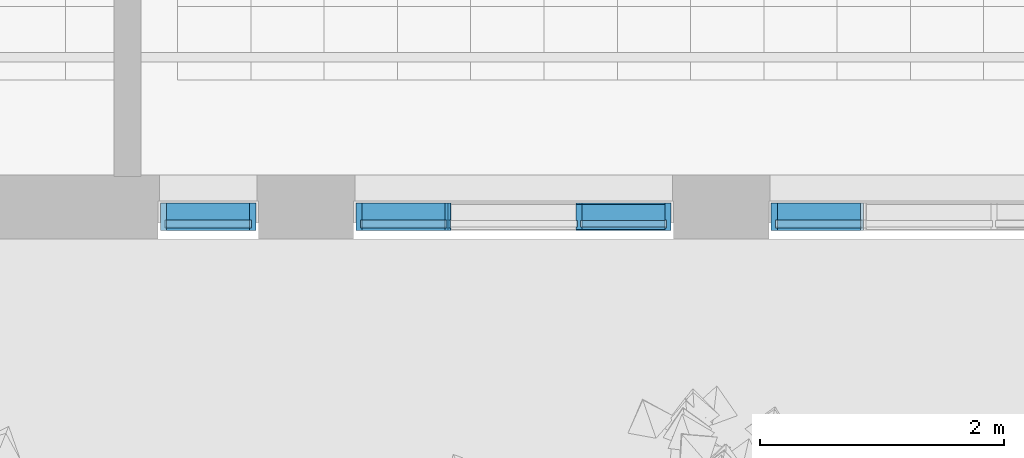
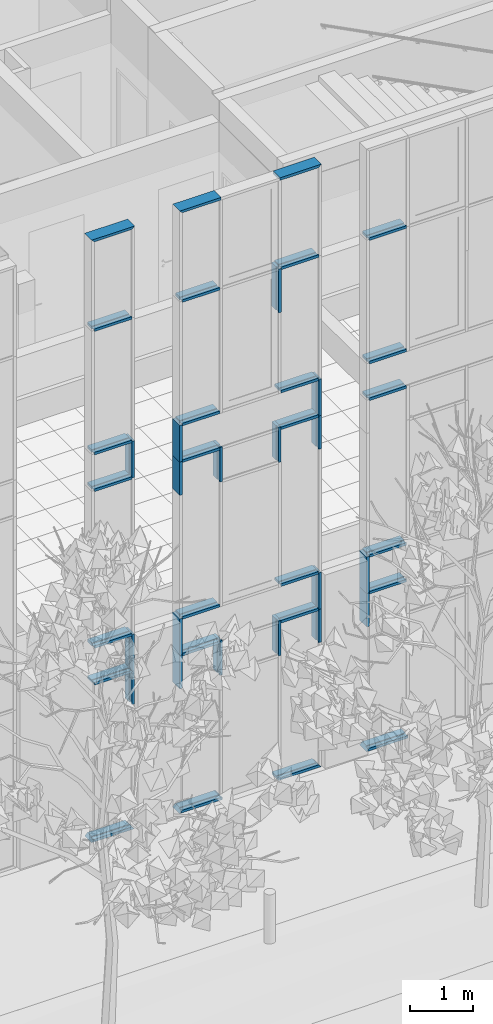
# One storey, part 41 of 246: 46 members, 3 elements without a shape of their own.
"""IFC2X3 building model written with IfcOpenShell, lengths in millimetres."""

from ifc_helpers import new_model, entity, si_unit, converted_unit, derived_unit, money_unit, direction, frame, origin_with_axes, place, context, subcontext, project, spatial, faceted_brep, source, transform, mapped, material, type_object, element, aggregate, save


model = new_model("IFC2X3")

# Units and contexts
model_context = context("Model", 3, precision=0.01, world=origin_with_axes(), true_north=direction((0.0, 1.0)))
body_context = subcontext(model_context, "Body", "Model", "MODEL_VIEW")
ifc_project = project(units=[si_unit("LENGTHUNIT", "METRE", prefix="MILLI"), si_unit("AREAUNIT", "SQUARE_METRE"), si_unit("VOLUMEUNIT", "CUBIC_METRE"), converted_unit("PLANEANGLEUNIT", "DEGREE", entity("IfcPlaneAngleMeasure", 0.0174532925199), si_unit("PLANEANGLEUNIT", "RADIAN"), dimensions=[0, 0, 0, 0, 0, 0, 0]), si_unit("SOLIDANGLEUNIT", "STERADIAN"), money_unit("EUR"), converted_unit("TIMEUNIT", "Year", entity("IfcTimeMeasure", 31556926.0), si_unit("TIMEUNIT", "SECOND"), dimensions=[0, 0, 1, 0, 0, 0, 0]), si_unit("MASSUNIT", "GRAM", prefix="KILO"), si_unit("THERMODYNAMICTEMPERATUREUNIT", "DEGREE_CELSIUS"), si_unit("LUMINOUSINTENSITYUNIT", "LUMEN"), si_unit("ENERGYUNIT", "JOULE", prefix="MEGA"), derived_unit("THERMALCONDUCTANCEUNIT", [(si_unit("POWERUNIT", "WATT"), 1), (si_unit("LENGTHUNIT", "METRE"), -1), (si_unit("THERMODYNAMICTEMPERATUREUNIT", "KELVIN"), -1)]), derived_unit("SPECIFICHEATCAPACITYUNIT", [(si_unit("ENERGYUNIT", "JOULE"), 1), (si_unit("MASSUNIT", "GRAM", prefix="KILO"), -1), (si_unit("THERMODYNAMICTEMPERATUREUNIT", "KELVIN"), -1)]), derived_unit("MASSDENSITYUNIT", [(si_unit("MASSUNIT", "GRAM", prefix="KILO"), 1), (si_unit("VOLUMEUNIT", "CUBIC_METRE"), -1)])], contexts=[model_context])

# Site, building, storey
site_placement = place(None, origin_with_axes())
site = spatial("IfcSite", under=ifc_project, at=site_placement, Name="L.Koidula tn 11b", CompositionType="ELEMENT")
building_placement = place(site_placement, origin_with_axes())
building = spatial("IfcBuilding", under=site, at=building_placement, Name="Rakvere Riigigümnaasium", CompositionType="ELEMENT")
storey_placement = place(building_placement, origin_with_axes())
storey = spatial("IfcBuildingStorey", under=building, at=storey_placement, Name="1.korrus 0,00", CompositionType="ELEMENT", Elevation=0.0)

# Curtain wall, members
curtain_wall_type = type_object("IfcCurtainWallType", Name="Curtain Wall Type", PredefinedType="NOTDEFINED")
curtain_wall_1_placement = place(storey_placement, frame((67100.0002798, 5111.45334637, -1.61944652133e-05), z_axis=(0.0, 0.0, 1.0), x_axis=(1.0, 0.0, 0.0)))
curtain_wall_1 = element("IfcCurtainWall", 1, at=curtain_wall_1_placement, inside=storey, type_object=curtain_wall_type, Name="KLF-05-4A")
ifc_material = material(Name="Alumiiniumprofiil (RAL 7021)")
member_type_1 = type_object("IfcMemberType", Name="Boundary Frame 50 x 222", PredefinedType="MULLION")
shared_shape_1 = source(origin_with_axes(), body_context, "Body", "Brep", [
    faceted_brep([(37.0, -32.5, 705.000000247), (37.0, 32.5, 705.000000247), (50.0, 32.5, 705.000000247), (50.0, 53.0, 705.000000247), (0.0, 53.0, 705.000000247), (0.0, -169.0, 705.000000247), (50.0, -169.0, 705.000000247), (50.0, -32.5, 705.000000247), (37.0, -32.5, 0.0), (37.0, 32.5, 0.0), (50.0, 32.5, 0.0), (50.0, 53.0, 0.0), (0.0, 53.0, 0.0), (0.0, -169.0, 0.0), (50.0, -169.0, 0.0), (50.0, -32.5, 0.0)], [[[0, 1, 2, 3, 4, 5, 6, 7]], [[1, 0, 8, 9]], [[10, 2, 1, 9]], [[2, 10, 11, 3]], [[12, 4, 3, 11]], [[13, 5, 4, 12]], [[14, 6, 5, 13]], [[15, 7, 6, 14]], [[0, 7, 15, 8]], [[8, 15, 14, 13, 12, 11, 10, 9]]]),
])
member_1_placement = place(curtain_wall_1_placement, frame((390.000208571, 0.0, 6760.0), z_axis=(0.0, 0.0, 1.0), x_axis=(-1.0, 0.0, 0.0)))
member_1 = element("IfcMember", 2, at=member_1_placement, type_object=member_type_1, material=ifc_material, Name="KLF-05-2A-Profiilid", ObjectType="MULLION", context=body_context, shape_type="MappedRepresentation", body=[
    mapped(shared_shape_1, transform((0.0, 0.0, 0.0))),
])
member_2_placement = place(curtain_wall_1_placement, frame((390.000208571, 0.0, 3040.0), z_axis=(0.0, 0.0, 1.0), x_axis=(-1.0, 0.0, 0.0)))
member_2 = element("IfcMember", 3, at=member_2_placement, type_object=member_type_1, material=ifc_material, Name="KLF-05-0A-Profiilid", ObjectType="MULLION", context=body_context, shape_type="MappedRepresentation", body=[
    mapped(shared_shape_1, transform((0.0, 0.0, 0.0))),
])

# Curtain wall, member
curtain_wall_2_placement = place(storey_placement, frame((72896.908541, 5111.45334637, -8.09717227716e-06), z_axis=(0.0, 0.0, 1.0), x_axis=(1.0, 0.0, 0.0)))
curtain_wall_2 = element("IfcCurtainWall", 4, at=curtain_wall_2_placement, inside=storey, type_object=curtain_wall_type, Name="KLF-05-3B")
member_3_placement = place(curtain_wall_2_placement, frame((-1186.90871197, 0.0, 3745.0), z_axis=(0.0, 0.0, -1.0), x_axis=(1.0, 0.0, 0.0)))
member_3 = element("IfcMember", 5, at=member_3_placement, type_object=member_type_1, material=ifc_material, Name="KLF-05-9A-Profiilid", ObjectType="MULLION", context=body_context, shape_type="MappedRepresentation", body=[
    mapped(shared_shape_1, transform((0.0, 0.0, 0.0))),
])

# Curtain wall, members
curtain_wall_3_placement = place(storey_placement, frame((69496.9084811, 5111.45334637, -8.09717186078e-06), z_axis=(0.0, 0.0, 1.0), x_axis=(1.0, 0.0, 0.0)))
curtain_wall_3 = element("IfcCurtainWall", 6, at=curtain_wall_3_placement, inside=storey, type_object=curtain_wall_type, Name="KLF-05-3B")
member_4_placement = place(curtain_wall_3_placement, frame((-1186.90871197, 0.0, 3745.0), z_axis=(0.0, 0.0, -1.0), x_axis=(1.0, 0.0, 0.0)))
member_4 = element("IfcMember", 7, at=member_4_placement, type_object=member_type_1, material=ifc_material, Name="KLF-05-9A-Profiilid", ObjectType="MULLION", context=body_context, shape_type="MappedRepresentation", body=[
    mapped(shared_shape_1, transform((0.0, 0.0, 0.0))),
])
member_5_placement = place(curtain_wall_3_placement, frame((-1186.90888468, 0.0, 7465.0), z_axis=(2.44971087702e-07, 0.0, -1.0), x_axis=(1.0, 0.0, 2.44971087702e-07)))
member_5 = element("IfcMember", 8, at=member_5_placement, type_object=member_type_1, material=ifc_material, Name="KLF-05-6A-Profiilid", ObjectType="MULLION", context=body_context, shape_type="MappedRepresentation", body=[
    mapped(shared_shape_1, transform((0.0, 0.0, 0.0))),
])
member_6_placement = place(curtain_wall_3_placement, frame((1393.0913307, 0.0, 6760.0), z_axis=(0.0, 0.0, 1.0), x_axis=(-1.0, 0.0, 0.0)))
member_6 = element("IfcMember", 9, at=member_6_placement, type_object=member_type_1, material=ifc_material, Name="KLF-05-8A-Profiilid", ObjectType="MULLION", context=body_context, shape_type="MappedRepresentation", body=[
    mapped(shared_shape_1, transform((0.0, 0.0, 0.0))),
])
member_7_placement = place(curtain_wall_3_placement, frame((1393.0913307, 0.0, 3040.0), z_axis=(0.0, 0.0, 1.0), x_axis=(-1.0, 0.0, 0.0)))
member_7 = element("IfcMember", 10, at=member_7_placement, type_object=member_type_1, material=ifc_material, Name="KLF-05-5A-Profiilid", ObjectType="MULLION", context=body_context, shape_type="MappedRepresentation", body=[
    mapped(shared_shape_1, transform((0.0, 0.0, 0.0))),
])

# Member
shared_shape_2 = source(origin_with_axes(), body_context, "Body", "Brep", [
    faceted_brep([(37.0, -32.5, 640.0), (37.0, 32.5, 640.0), (50.0, 32.5, 640.0), (50.0, 53.0, 640.0), (0.0, 53.0, 640.0), (0.0, -169.0, 640.0), (50.0, -169.0, 640.0), (50.0, -32.5, 640.0), (37.0, -32.5, 0.0), (37.0, 32.5, 0.0), (50.0, 32.5, 0.0), (50.0, 53.0, 0.0), (0.0, 53.0, 0.0), (0.0, -169.0, 0.0), (50.0, -169.0, 0.0), (50.0, -32.5, 0.0)], [[[0, 1, 2, 3, 4, 5, 6, 7]], [[1, 0, 8, 9]], [[10, 2, 1, 9]], [[2, 10, 11, 3]], [[12, 4, 3, 11]], [[13, 5, 4, 12]], [[14, 6, 5, 13]], [[15, 7, 6, 14]], [[0, 7, 15, 8]], [[8, 15, 14, 13, 12, 11, 10, 9]]]),
])
member_8_placement = place(curtain_wall_1_placement, frame((390.000208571, 0.0, 2400.0), z_axis=(0.0, 0.0, 1.0), x_axis=(-1.0, 0.0, 0.0)))
member_8 = element("IfcMember", 11, at=member_8_placement, type_object=member_type_1, material=ifc_material, Name="KLF-05-9A-Profiilid", ObjectType="MULLION", context=body_context, shape_type="MappedRepresentation", body=[
    mapped(shared_shape_2, transform((0.0, 0.0, 0.0))),
])

member_9_placement = place(curtain_wall_2_placement, frame((-1186.90871197, 0.0, 3040.0), z_axis=(0.0, 0.0, -1.0), x_axis=(1.0, 0.0, 0.0)))
member_9 = element("IfcMember", 12, at=member_9_placement, type_object=member_type_1, material=ifc_material, Name="KLF-05-0A-Profiilid", ObjectType="MULLION", context=body_context, shape_type="MappedRepresentation", body=[
    mapped(shared_shape_2, transform((0.0, 0.0, 0.0))),
])

member_10_placement = place(curtain_wall_3_placement, frame((-1186.90871197, 0.0, 3040.0), z_axis=(0.0, 0.0, -1.0), x_axis=(1.0, 0.0, 0.0)))
member_10 = element("IfcMember", 13, at=member_10_placement, type_object=member_type_1, material=ifc_material, Name="KLF-05-0A-Profiilid", ObjectType="MULLION", context=body_context, shape_type="MappedRepresentation", body=[
    mapped(shared_shape_2, transform((0.0, 0.0, 0.0))),
])

member_11_placement = place(curtain_wall_3_placement, frame((-1186.90871197, 0.0, 6760.0), z_axis=(0.0, 0.0, -1.0), x_axis=(1.0, 0.0, 0.0)))
member_11 = element("IfcMember", 14, at=member_11_placement, type_object=member_type_1, material=ifc_material, Name="KLF-05-7A-Profiilid", ObjectType="MULLION", context=body_context, shape_type="MappedRepresentation", body=[
    mapped(shared_shape_2, transform((0.0, 0.0, 0.0))),
])

member_12_placement = place(curtain_wall_3_placement, frame((1393.09127348, 0.0, 6120.0), z_axis=(8.94070373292e-08, 0.0, 1.0), x_axis=(-1.0, 0.0, 8.94070373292e-08)))
member_12 = element("IfcMember", 15, at=member_12_placement, type_object=member_type_1, material=ifc_material, Name="KLF-05-7A-Profiilid", ObjectType="MULLION", context=body_context, shape_type="MappedRepresentation", body=[
    mapped(shared_shape_2, transform((0.0, 0.0, 0.0))),
])

member_13_placement = place(curtain_wall_3_placement, frame((1393.09127348, 0.0, 2400.0), z_axis=(8.94070373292e-08, 0.0, 1.0), x_axis=(-1.0, 0.0, 8.94070373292e-08)))
member_13 = element("IfcMember", 16, at=member_13_placement, type_object=member_type_1, material=ifc_material, Name="KLF-05-4A-Profiilid", ObjectType="MULLION", context=body_context, shape_type="MappedRepresentation", body=[
    mapped(shared_shape_2, transform((0.0, 0.0, 0.0))),
])

member_type_2 = type_object("IfcMemberType", Name="Transom Frame 50 x 222", PredefinedType="MULLION")
shared_shape_3 = source(origin_with_axes(), body_context, "Body", "Brep", [
    faceted_brep([(-12.0, -32.5, 730.000405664), (-25.0, -32.5, 730.000405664), (-25.0, -169.0, 730.000405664), (25.0, -169.0, 730.000405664), (25.0, -32.5, 730.000405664), (12.0, -32.5, 730.000405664), (12.0, 32.5, 730.000405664), (25.0, 32.5, 730.000405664), (25.0, 53.0, 730.000405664), (-25.0, 53.0, 730.000405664), (-25.0, 32.5, 730.000405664), (-12.0, 32.5, 730.000405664), (-12.0, -32.5, 50.0), (-25.0, -32.5, 50.0), (-25.0, -169.0, 50.0), (25.0, -169.0, 50.0), (25.0, -32.5, 50.0), (12.0, -32.5, 50.0), (12.0, 32.5, 50.0), (25.0, 32.5, 50.0), (25.0, 53.0, 50.0), (-25.0, 53.0, 50.0), (-25.0, 32.5, 50.0), (-12.0, 32.5, 50.0)], [[[0, 1, 2, 3, 4, 5, 6, 7, 8, 9, 10, 11]], [[1, 0, 12, 13]], [[1, 13, 14, 2]], [[2, 14, 15, 3]], [[4, 3, 15, 16]], [[4, 16, 17, 5]], [[5, 17, 18, 6]], [[7, 6, 18, 19]], [[19, 20, 8, 7]], [[8, 20, 21, 9]], [[22, 10, 9, 21]], [[11, 10, 22, 23]], [[0, 11, 23, 12]], [[23, 22, 21, 20, 19, 18, 17, 16, 15, 14, 13, 12]]]),
])
member_14_placement = place(curtain_wall_1_placement, frame((-390.000197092, 0.0, 3040.0), z_axis=(1.0, 0.0, 0.0), x_axis=(0.0, 0.0, 1.0)))
member_14 = element("IfcMember", 17, at=member_14_placement, type_object=member_type_2, material=ifc_material, Name="KLF-05-9A-Profiilid", ObjectType="MULLION", context=body_context, shape_type="MappedRepresentation", body=[
    mapped(shared_shape_3, transform((0.0, 0.0, 0.0))),
])

member_15_placement = place(curtain_wall_1_placement, frame((-390.000197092, 0.0, 9840.0), z_axis=(1.0, 0.0, 0.0), x_axis=(0.0, 0.0, 1.0)))
member_15 = element("IfcMember", 18, at=member_15_placement, type_object=member_type_2, material=ifc_material, Name="KLF-05-0A-Profiilid", ObjectType="MULLION", context=body_context, shape_type="MappedRepresentation", body=[
    mapped(shared_shape_3, transform((0.0, 0.0, 0.0))),
])

member_16_placement = place(curtain_wall_1_placement, frame((-390.000197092, 0.0, 7465.0), z_axis=(1.0, 0.0, 0.0), x_axis=(0.0, 0.0, 1.0)))
member_16 = element("IfcMember", 19, at=member_16_placement, type_object=member_type_2, material=ifc_material, Name="KLF-05-1A-Profiilid", ObjectType="MULLION", context=body_context, shape_type="MappedRepresentation", body=[
    mapped(shared_shape_3, transform((0.0, 0.0, 0.0))),
])

member_17_placement = place(curtain_wall_1_placement, frame((-390.000197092, 0.0, 6760.0), z_axis=(1.0, 0.0, 0.0), x_axis=(0.0, 0.0, 1.0)))
member_17 = element("IfcMember", 20, at=member_17_placement, type_object=member_type_2, material=ifc_material, Name="KLF-05-2A-Profiilid", ObjectType="MULLION", context=body_context, shape_type="MappedRepresentation", body=[
    mapped(shared_shape_3, transform((0.0, 0.0, 0.0))),
])

member_18_placement = place(curtain_wall_1_placement, frame((-390.000197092, 0.0, 3745.0), z_axis=(1.0, 0.0, 0.0), x_axis=(0.0, 0.0, 1.0)))
member_18 = element("IfcMember", 21, at=member_18_placement, type_object=member_type_2, material=ifc_material, Name="KLF-05-7A-Profiilid", ObjectType="MULLION", context=body_context, shape_type="MappedRepresentation", body=[
    mapped(shared_shape_3, transform((0.0, 0.0, 0.0))),
])

member_type_3 = type_object("IfcMemberType", Name="Mullion Frame 50 x 222", PredefinedType="MULLION")
shared_shape_4 = source(origin_with_axes(), body_context, "Body", "Brep", [
    faceted_brep([(-12.0, -32.5, 665.0), (-25.0, -32.5, 665.0), (-25.0, -169.0, 665.0), (25.0, -169.0, 665.0), (25.0, -32.5, 665.0), (12.0, -32.5, 665.0), (12.0, 32.5, 665.0), (25.0, 32.5, 665.0), (25.0, 53.0, 665.0), (-25.0, 53.0, 665.0), (-25.0, 32.5, 665.0), (-12.0, 32.5, 665.0), (-12.0, -32.5, 0.0), (-25.0, -32.5, 0.0), (-25.0, -169.0, 0.0), (25.0, -169.0, 0.0), (25.0, -32.5, 0.0), (12.0, -32.5, 0.0), (12.0, 32.5, 0.0), (25.0, 32.5, 0.0), (25.0, 53.0, 0.0), (-25.0, 53.0, 0.0), (-25.0, 32.5, 0.0), (-12.0, 32.5, 0.0)], [[[0, 1, 2, 3, 4, 5, 6, 7, 8, 9, 10, 11]], [[1, 0, 12, 13]], [[1, 13, 14, 2]], [[3, 2, 14, 15]], [[4, 3, 15, 16]], [[4, 16, 17, 5]], [[5, 17, 18, 6]], [[7, 6, 18, 19]], [[19, 20, 8, 7]], [[9, 8, 20, 21]], [[22, 10, 9, 21]], [[11, 10, 22, 23]], [[0, 11, 23, 12]], [[23, 22, 21, 20, 19, 18, 17, 16, 15, 14, 13, 12]]]),
])
member_19_placement = place(curtain_wall_3_placement, frame((-431.908628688, 0.0, 2400.0), z_axis=(0.0, 0.0, 1.0), x_axis=(-1.0, 0.0, 0.0)))
member_19 = element("IfcMember", 22, at=member_19_placement, type_object=member_type_3, material=ifc_material, Name="KLF-05-1A-Profiilid", ObjectType="MULLION", context=body_context, shape_type="MappedRepresentation", body=[
    mapped(shared_shape_4, transform((0.0, 0.0, 0.0))),
])

member_20_placement = place(curtain_wall_3_placement, frame((-431.908628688, 0.0, 6120.0), z_axis=(0.0, 0.0, 1.0), x_axis=(-1.0, 0.0, 0.0)))
member_20 = element("IfcMember", 23, at=member_20_placement, type_object=member_type_3, material=ifc_material, Name="KLF-05-8A-Profiilid", ObjectType="MULLION", context=body_context, shape_type="MappedRepresentation", body=[
    mapped(shared_shape_4, transform((0.0, 0.0, 0.0))),
])

member_type_4 = type_object("IfcMemberType", Name="50 x 208", PredefinedType="MULLION")
shared_shape_5 = source(origin_with_axes(), body_context, "Body", "Brep", [
    faceted_brep([(-12.0, -27.0, 665.0), (-25.0, -27.0, 665.0), (-25.0, -160.0, 665.0), (25.0, -160.0, 665.0), (25.0, -27.0, 665.0), (12.0, -27.0, 665.0), (12.0, 27.0, 665.0), (25.0, 27.0, 665.0), (25.0, 48.0, 665.0), (-25.0, 48.0, 665.0), (-25.0, 27.0, 665.0), (-12.0, 27.0, 665.0), (-12.0, -27.0, 0.0), (-25.0, -27.0, 0.0), (-25.0, -160.0, 0.0), (25.0, -160.0, 0.0), (25.0, -27.0, 0.0), (12.0, -27.0, 0.0), (12.0, 27.0, 0.0), (25.0, 27.0, 0.0), (25.0, 48.0, 0.0), (-25.0, 48.0, 0.0), (-25.0, 27.0, 0.0), (-12.0, 27.0, 0.0)], [[[0, 1, 2, 3, 4, 5, 6, 7, 8, 9, 10, 11]], [[1, 0, 12, 13]], [[1, 13, 14, 2]], [[3, 2, 14, 15]], [[4, 3, 15, 16]], [[4, 16, 17, 5]], [[5, 17, 18, 6]], [[7, 6, 18, 19]], [[19, 20, 8, 7]], [[9, 8, 20, 21]], [[22, 10, 9, 21]], [[11, 10, 22, 23]], [[0, 11, 23, 12]], [[23, 22, 21, 20, 19, 18, 17, 16, 15, 14, 13, 12]]]),
])
member_21_placement = place(curtain_wall_3_placement, frame((638.091371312, 0.0, 2400.0), z_axis=(0.0, 0.0, 1.0), x_axis=(-1.0, 0.0, 0.0)))
member_21 = element("IfcMember", 24, at=member_21_placement, type_object=member_type_4, material=ifc_material, Name="KLF-41", ObjectType="MULLION", context=body_context, shape_type="MappedRepresentation", body=[
    mapped(shared_shape_5, transform((0.0, 0.0, 0.0))),
])

member_22_placement = place(curtain_wall_3_placement, frame((638.091371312, 0.0, 6120.0), z_axis=(0.0, 0.0, 1.0), x_axis=(-1.0, 0.0, 0.0)))
member_22 = element("IfcMember", 25, at=member_22_placement, type_object=member_type_4, material=ifc_material, Name="KLF-96", ObjectType="MULLION", context=body_context, shape_type="MappedRepresentation", body=[
    mapped(shared_shape_5, transform((0.0, 0.0, 0.0))),
])

shared_shape_6 = source(origin_with_axes(), body_context, "Body", "Brep", [
    faceted_brep([(-12.0, -32.5, 730.000255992), (-25.0, -32.5, 730.000255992), (-25.0, -169.0, 730.000255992), (25.0, -169.0, 730.000255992), (25.0, -32.5, 730.000255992), (12.0, -32.5, 730.000255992), (12.0, 32.5, 730.000255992), (25.0, 32.5, 730.000255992), (25.0, 53.0, 730.000255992), (-25.0, 53.0, 730.000255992), (-25.0, 32.5, 730.000255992), (-12.0, 32.5, 730.000255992), (-12.0, -32.5, 50.0), (-25.0, -32.5, 50.0), (-25.0, -169.0, 50.0), (25.0, -169.0, 50.0), (25.0, -32.5, 50.0), (12.0, -32.5, 50.0), (12.0, 32.5, 50.0), (25.0, 32.5, 50.0), (25.0, 53.0, 50.0), (-25.0, 53.0, 50.0), (-25.0, 32.5, 50.0), (-12.0, 32.5, 50.0)], [[[0, 1, 2, 3, 4, 5, 6, 7, 8, 9, 10, 11]], [[1, 0, 12, 13]], [[1, 13, 14, 2]], [[2, 14, 15, 3]], [[4, 3, 15, 16]], [[4, 16, 17, 5]], [[5, 17, 18, 6]], [[7, 6, 18, 19]], [[19, 20, 8, 7]], [[8, 20, 21, 9]], [[22, 10, 9, 21]], [[11, 10, 22, 23]], [[0, 11, 23, 12]], [[23, 22, 21, 20, 19, 18, 17, 16, 15, 14, 13, 12]]]),
])
member_23_placement = place(curtain_wall_2_placement, frame((-1186.90888468, 0.0, 7465.0), z_axis=(1.0, 0.0, 0.0), x_axis=(0.0, 0.0, 1.0)))
member_23 = element("IfcMember", 26, at=member_23_placement, type_object=member_type_2, material=ifc_material, Name="KLF-05-2A-Profiilid", ObjectType="MULLION", context=body_context, shape_type="MappedRepresentation", body=[
    mapped(shared_shape_6, transform((0.0, 0.0, 0.0))),
])

member_24_placement = place(curtain_wall_2_placement, frame((-1186.90871197, 0.0, 6760.0), z_axis=(1.0, 0.0, 0.0), x_axis=(0.0, 0.0, 1.0)))
member_24 = element("IfcMember", 27, at=member_24_placement, type_object=member_type_2, material=ifc_material, Name="KLF-05-0A-Profiilid", ObjectType="MULLION", context=body_context, shape_type="MappedRepresentation", body=[
    mapped(shared_shape_6, transform((0.0, 0.0, 0.0))),
])

member_25_placement = place(curtain_wall_2_placement, frame((-1186.90888468, 0.0, 9840.0), z_axis=(1.0, 0.0, 0.0), x_axis=(0.0, 0.0, 1.0)))
member_25 = element("IfcMember", 28, at=member_25_placement, type_object=member_type_2, material=ifc_material, Name="KLF-05-4A-Profiilid", ObjectType="MULLION", context=body_context, shape_type="MappedRepresentation", body=[
    mapped(shared_shape_6, transform((0.0, 0.0, 0.0))),
])

member_26_placement = place(curtain_wall_2_placement, frame((-1186.90871197, 0.0, 3745.0), z_axis=(1.0, 0.0, 0.0), x_axis=(0.0, 0.0, 1.0)))
member_26 = element("IfcMember", 29, at=member_26_placement, type_object=member_type_2, material=ifc_material, Name="KLF-05-6A-Profiilid", ObjectType="MULLION", context=body_context, shape_type="MappedRepresentation", body=[
    mapped(shared_shape_6, transform((0.0, 0.0, 0.0))),
])

member_27_placement = place(curtain_wall_2_placement, frame((-1186.90871197, 0.0, 3040.0), z_axis=(1.0, 0.0, 0.0), x_axis=(0.0, 0.0, 1.0)))
member_27 = element("IfcMember", 30, at=member_27_placement, type_object=member_type_2, material=ifc_material, Name="KLF-05-0A-Profiilid", ObjectType="MULLION", context=body_context, shape_type="MappedRepresentation", body=[
    mapped(shared_shape_6, transform((0.0, 0.0, 0.0))),
])

member_28_placement = place(curtain_wall_3_placement, frame((-1186.90888468, 0.0, 7465.0), z_axis=(1.0, 0.0, 0.0), x_axis=(0.0, 0.0, 1.0)))
member_28 = element("IfcMember", 31, at=member_28_placement, type_object=member_type_2, material=ifc_material, Name="KLF-05-2A-Profiilid", ObjectType="MULLION", context=body_context, shape_type="MappedRepresentation", body=[
    mapped(shared_shape_6, transform((0.0, 0.0, 0.0))),
])

member_29_placement = place(curtain_wall_3_placement, frame((-1186.90871197, 0.0, 6760.0), z_axis=(1.0, 0.0, 0.0), x_axis=(0.0, 0.0, 1.0)))
member_29 = element("IfcMember", 32, at=member_29_placement, type_object=member_type_2, material=ifc_material, Name="KLF-05-0A-Profiilid", ObjectType="MULLION", context=body_context, shape_type="MappedRepresentation", body=[
    mapped(shared_shape_6, transform((0.0, 0.0, 0.0))),
])

member_30_placement = place(curtain_wall_3_placement, frame((-1186.90888468, 0.0, 9840.0), z_axis=(1.0, 0.0, 0.0), x_axis=(0.0, 0.0, 1.0)))
member_30 = element("IfcMember", 33, at=member_30_placement, type_object=member_type_2, material=ifc_material, Name="KLF-05-4A-Profiilid", ObjectType="MULLION", context=body_context, shape_type="MappedRepresentation", body=[
    mapped(shared_shape_6, transform((0.0, 0.0, 0.0))),
])

member_31_placement = place(curtain_wall_3_placement, frame((-1186.90871197, 0.0, 3745.0), z_axis=(1.0, 0.0, 0.0), x_axis=(0.0, 0.0, 1.0)))
member_31 = element("IfcMember", 34, at=member_31_placement, type_object=member_type_2, material=ifc_material, Name="KLF-05-6A-Profiilid", ObjectType="MULLION", context=body_context, shape_type="MappedRepresentation", body=[
    mapped(shared_shape_6, transform((0.0, 0.0, 0.0))),
])

member_32_placement = place(curtain_wall_3_placement, frame((-1186.90871197, 0.0, 3040.0), z_axis=(1.0, 0.0, 0.0), x_axis=(0.0, 0.0, 1.0)))
member_32 = element("IfcMember", 35, at=member_32_placement, type_object=member_type_2, material=ifc_material, Name="KLF-05-0A-Profiilid", ObjectType="MULLION", context=body_context, shape_type="MappedRepresentation", body=[
    mapped(shared_shape_6, transform((0.0, 0.0, 0.0))),
])

shared_shape_7 = source(origin_with_axes(), body_context, "Body", "Brep", [
    faceted_brep([(-12.0, -27.0, 704.999959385), (-25.0, -27.0, 704.999959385), (-25.0, -160.0, 704.999959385), (25.0, -160.0, 704.999959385), (25.0, -27.0, 704.999959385), (12.0, -27.0, 704.999959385), (12.0, 27.0, 704.999959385), (25.0, 27.0, 704.999959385), (25.0, 48.0, 704.999959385), (-25.0, 48.0, 704.999959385), (-25.0, 27.0, 704.999959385), (-12.0, 27.0, 704.999959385), (-12.0, -27.0, 25.0), (-25.0, -27.0, 25.0), (-25.0, -160.0, 25.0), (25.0, -160.0, 25.0), (25.0, -27.0, 25.0), (12.0, -27.0, 25.0), (12.0, 27.0, 25.0), (25.0, 27.0, 25.0), (25.0, 48.0, 25.0), (-25.0, 48.0, 25.0), (-25.0, 27.0, 25.0), (-12.0, 27.0, 25.0)], [[[0, 1, 2, 3, 4, 5, 6, 7, 8, 9, 10, 11]], [[1, 0, 12, 13]], [[1, 13, 14, 2]], [[2, 14, 15, 3]], [[4, 3, 15, 16]], [[4, 16, 17, 5]], [[5, 17, 18, 6]], [[7, 6, 18, 19]], [[19, 20, 8, 7]], [[8, 20, 21, 9]], [[22, 10, 9, 21]], [[11, 10, 22, 23]], [[0, 11, 23, 12]], [[23, 22, 21, 20, 19, 18, 17, 16, 15, 14, 13, 12]]]),
])
member_33_placement = place(curtain_wall_3_placement, frame((638.091371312, 0.0, 7465.0), z_axis=(1.0, 0.0, 0.0), x_axis=(0.0, 0.0, 1.0)))
member_33 = element("IfcMember", 36, at=member_33_placement, type_object=member_type_4, material=ifc_material, Name="KLF-57", ObjectType="MULLION", context=body_context, shape_type="MappedRepresentation", body=[
    mapped(shared_shape_7, transform((0.0, 0.0, 0.0))),
])

member_34_placement = place(curtain_wall_3_placement, frame((638.091371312, 0.0, 6760.0), z_axis=(1.0, 0.0, 0.0), x_axis=(0.0, 0.0, 1.0)))
member_34 = element("IfcMember", 37, at=member_34_placement, type_object=member_type_4, material=ifc_material, Name="KLF-33", ObjectType="MULLION", context=body_context, shape_type="MappedRepresentation", body=[
    mapped(shared_shape_7, transform((0.0, 0.0, 0.0))),
])

member_35_placement = place(curtain_wall_3_placement, frame((638.091371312, 0.0, 3745.0), z_axis=(1.0, 0.0, 0.0), x_axis=(0.0, 0.0, 1.0)))
member_35 = element("IfcMember", 38, at=member_35_placement, type_object=member_type_4, material=ifc_material, Name="KLF-08", ObjectType="MULLION", context=body_context, shape_type="MappedRepresentation", body=[
    mapped(shared_shape_7, transform((0.0, 0.0, 0.0))),
])

member_36_placement = place(curtain_wall_3_placement, frame((638.091371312, 0.0, 3040.0), z_axis=(1.0, 0.0, 0.0), x_axis=(0.0, 0.0, 1.0)))
member_36 = element("IfcMember", 39, at=member_36_placement, type_object=member_type_4, material=ifc_material, Name="KLF-09", ObjectType="MULLION", context=body_context, shape_type="MappedRepresentation", body=[
    mapped(shared_shape_7, transform((0.0, 0.0, 0.0))),
])

shared_shape_8 = source(origin_with_axes(), body_context, "Body", "Brep", [
    faceted_brep([(37.0, -32.5, 743.000405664), (37.0, 32.5, 743.000405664), (50.0, 32.5, 730.000405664), (50.0, 53.0, 730.000405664), (0.0, 53.0, 780.000405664), (0.0, -169.0, 780.000405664), (50.0, -169.0, 730.000405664), (50.0, -32.5, 730.000405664), (37.0, -32.5, 37.0), (37.0, 32.5, 37.0), (50.0, 32.5, 50.0), (50.0, 53.0, 50.0), (0.0, 53.0, 0.0), (0.0, -169.0, 0.0), (50.0, -169.0, 50.0), (50.0, -32.5, 50.0)], [[[0, 1, 2, 3, 4, 5, 6, 7]], [[1, 0, 8, 9]], [[10, 2, 1, 9]], [[2, 10, 11, 3]], [[4, 3, 11, 12]], [[5, 4, 12, 13]], [[6, 5, 13, 14]], [[15, 7, 6, 14]], [[0, 7, 15, 8]], [[8, 15, 14, 13, 12, 11, 10, 9]]]),
])
member_37_placement = place(curtain_wall_1_placement, frame((-390.000197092, 0.0, 0.0), z_axis=(1.0, 0.0, 0.0), x_axis=(0.0, 0.0, 1.0)))
member_37 = element("IfcMember", 40, at=member_37_placement, type_object=member_type_1, material=ifc_material, Name="KLF-05-7A-Profiilid", ObjectType="MULLION", context=body_context, shape_type="MappedRepresentation", body=[
    mapped(shared_shape_8, transform((0.0, 0.0, 0.0))),
])

member_38_placement = place(curtain_wall_1_placement, frame((390.000118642, 0.0, 11590.0000411), z_axis=(-1.0, 0.0, 0.0), x_axis=(0.0, 0.0, -1.0)))
member_38 = element("IfcMember", 41, at=member_38_placement, type_object=member_type_1, material=ifc_material, Name="KLF-05-5A-Profiilid", ObjectType="MULLION", context=body_context, shape_type="MappedRepresentation", body=[
    mapped(shared_shape_8, transform((0.0, 0.0, 0.0))),
])

aggregate(curtain_wall_1, [member_37, member_14, member_15, member_16, member_17, member_1, member_18, member_2, member_8, member_38])

shared_shape_9 = source(origin_with_axes(), body_context, "Body", "Brep", [
    faceted_brep([(-12.0, -32.5, 840.0), (-25.0, -32.5, 840.0), (-25.0, -169.0, 840.0), (25.0, -169.0, 840.0), (25.0, -32.5, 840.0), (12.0, -32.5, 840.0), (12.0, 32.5, 840.0), (25.0, 32.5, 840.0), (25.0, 53.0, 840.0), (-25.0, 53.0, 840.0), (-25.0, 32.5, 840.0), (-12.0, 32.5, 840.0), (-12.0, -32.5, 0.0), (-25.0, -32.5, 0.0), (-25.0, -169.0, 0.0), (25.0, -169.0, 0.0), (25.0, -32.5, 0.0), (12.0, -32.5, 0.0), (12.0, 32.5, 0.0), (25.0, 32.5, 0.0), (25.0, 53.0, 0.0), (-25.0, 53.0, 0.0), (-25.0, 32.5, 0.0), (-12.0, 32.5, 0.0)], [[[0, 1, 2, 3, 4, 5, 6, 7, 8, 9, 10, 11]], [[1, 0, 12, 13]], [[1, 13, 14, 2]], [[3, 2, 14, 15]], [[4, 3, 15, 16]], [[4, 16, 17, 5]], [[5, 17, 18, 6]], [[7, 6, 18, 19]], [[19, 20, 8, 7]], [[9, 8, 20, 21]], [[22, 10, 9, 21]], [[11, 10, 22, 23]], [[0, 11, 23, 12]], [[23, 22, 21, 20, 19, 18, 17, 16, 15, 14, 13, 12]]]),
])
member_39_placement = place(curtain_wall_3_placement, frame((638.091371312, 0.0, 9000.0), z_axis=(0.0, 0.0, 1.0), x_axis=(-1.0, 0.0, 0.0)))
member_39 = element("IfcMember", 42, at=member_39_placement, type_object=member_type_3, material=ifc_material, Name="KLF-05-3A-Profiilid", ObjectType="MULLION", context=body_context, shape_type="MappedRepresentation", body=[
    mapped(shared_shape_9, transform((0.0, 0.0, 0.0))),
])

shared_shape_10 = source(origin_with_axes(), body_context, "Body", "Brep", [
    faceted_brep([(37.0, -32.5, 755.000083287), (37.0, 32.5, 755.000083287), (50.0, 32.5, 755.000083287), (50.0, 53.0, 755.000083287), (0.0, 53.0, 755.000083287), (0.0, -169.0, 755.000083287), (50.0, -169.0, 755.000083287), (50.0, -32.5, 755.000083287), (37.0, -32.5, 37.0), (37.0, 32.5, 37.0), (50.0, 32.5, 50.0), (50.0, 53.0, 50.0), (0.0, 53.0, 0.0), (0.0, -169.0, 0.0), (50.0, -169.0, 50.0), (50.0, -32.5, 50.0)], [[[0, 1, 2, 3, 4, 5, 6, 7]], [[1, 0, 8, 9]], [[10, 2, 1, 9]], [[2, 10, 11, 3]], [[4, 3, 11, 12]], [[5, 4, 12, 13]], [[6, 5, 13, 14]], [[15, 7, 6, 14]], [[0, 7, 15, 8]], [[8, 15, 14, 13, 12, 11, 10, 9]]]),
])
member_40_placement = place(curtain_wall_2_placement, frame((-1186.90871197, 0.0, 0.0), z_axis=(1.0, 0.0, 0.0), x_axis=(0.0, 0.0, 1.0)))
member_40 = element("IfcMember", 43, at=member_40_placement, type_object=member_type_1, material=ifc_material, Name="KLF-05-0A-Profiilid", ObjectType="MULLION", context=body_context, shape_type="MappedRepresentation", body=[
    mapped(shared_shape_10, transform((0.0, 0.0, 0.0))),
])

aggregate(curtain_wall_2, [member_23, member_24, member_40, member_25, member_26, member_27, member_9, member_3])

member_41_placement = place(curtain_wall_3_placement, frame((-1186.90871197, 0.0, 0.0), z_axis=(1.0, 0.0, 0.0), x_axis=(0.0, 0.0, 1.0)))
member_41 = element("IfcMember", 44, at=member_41_placement, type_object=member_type_1, material=ifc_material, Name="KLF-05-0A-Profiilid", ObjectType="MULLION", context=body_context, shape_type="MappedRepresentation", body=[
    mapped(shared_shape_10, transform((0.0, 0.0, 0.0))),
])

member_42_placement = place(curtain_wall_3_placement, frame((1393.09130904, 0.0, 11590.0000411), z_axis=(-1.0, 0.0, 0.0), x_axis=(0.0, 0.0, -1.0)))
member_42 = element("IfcMember", 45, at=member_42_placement, type_object=member_type_1, material=ifc_material, Name="KLF-05-1A-Profiilid", ObjectType="MULLION", context=body_context, shape_type="MappedRepresentation", body=[
    mapped(shared_shape_10, transform((0.0, 0.0, 0.0))),
])

shared_shape_11 = source(origin_with_axes(), body_context, "Body", "Brep", [
    faceted_brep([(37.0, -32.5, 19.5432673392), (37.0, 32.5, 19.5432673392), (50.0, 32.5, 19.5432673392), (50.0, 53.0, 19.5432673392), (0.0, 53.0, 19.5432673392), (0.0, -169.0, 19.5432673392), (50.0, -169.0, 19.5432673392), (50.0, -32.5, 19.5432673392), (37.0, -32.5, 0.0), (37.0, 32.5, 0.0), (50.0, 32.5, 0.0), (50.0, 53.0, 0.0), (0.0, 53.0, 0.0), (0.0, -169.0, 0.0), (50.0, -169.0, 0.0), (50.0, -32.5, 0.0)], [[[0, 1, 2, 3, 4, 5, 6, 7]], [[1, 0, 8, 9]], [[10, 2, 1, 9]], [[2, 10, 11, 3]], [[12, 4, 3, 11]], [[13, 5, 4, 12]], [[14, 6, 5, 13]], [[15, 7, 6, 14]], [[0, 7, 15, 8]], [[8, 15, 14, 13, 12, 11, 10, 9]]]),
])
member_43_placement = place(curtain_wall_3_placement, frame((-431.908628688, 0.0, 0.0), z_axis=(1.0, 0.0, 0.0), x_axis=(0.0, 0.0, 1.0)))
member_43 = element("IfcMember", 46, at=member_43_placement, type_object=member_type_1, material=ifc_material, Name="KLF-05-1A-Profiilid", ObjectType="MULLION", context=body_context, shape_type="MappedRepresentation", body=[
    mapped(shared_shape_11, transform((0.0, 0.0, 0.0))),
])

shared_shape_12 = source(origin_with_axes(), body_context, "Body", "Brep", [
    faceted_brep([(37.0, -27.0, 717.999958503), (37.0, 27.0, 717.999958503), (50.0, 27.0, 704.999958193), (50.0, 48.0, 704.999958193), (0.0, 48.0, 754.999959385), (0.0, -160.0, 754.999959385), (50.0, -160.0, 704.999958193), (50.0, -27.0, 704.999958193), (37.0, -27.0, -25.0), (37.0, 27.0, -25.0), (50.0, 27.0, -25.0), (50.0, 48.0, -25.0), (0.0, 48.0, -25.0), (0.0, -160.0, -25.0), (50.0, -160.0, -25.0), (50.0, -27.0, -25.0)], [[[0, 1, 2, 3, 4, 5, 6, 7]], [[1, 0, 8, 9]], [[10, 2, 1, 9]], [[2, 10, 11, 3]], [[12, 4, 3, 11]], [[13, 5, 4, 12]], [[14, 6, 5, 13]], [[15, 7, 6, 14]], [[0, 7, 15, 8]], [[8, 15, 14, 13, 12, 11, 10, 9]]]),
])
member_44_placement = place(curtain_wall_3_placement, frame((638.091371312, 0.0, 0.0), z_axis=(1.0, 0.0, 0.0), x_axis=(0.0, 0.0, 1.0)))
member_44 = element("IfcMember", 47, at=member_44_placement, type_object=member_type_4, material=ifc_material, Name="KLF-55", ObjectType="MULLION", context=body_context, shape_type="MappedRepresentation", body=[
    mapped(shared_shape_12, transform((0.0, 0.0, 0.0))),
])

shared_shape_13 = source(origin_with_axes(), body_context, "Body", "Brep", [
    faceted_brep([(-12.0, -32.5, 704.99994074), (-25.0, -32.5, 704.99994074), (-25.0, -169.0, 704.999939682), (25.0, -169.0, 704.999939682), (25.0, -32.5, 704.99994074), (12.0, -32.5, 704.99994074), (12.0, 32.5, 704.999941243), (25.0, 32.5, 704.999941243), (25.0, 53.0, 704.999941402), (-25.0, 53.0, 704.999941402), (-25.0, 32.5, 704.999941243), (-12.0, 32.5, 704.999941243), (-12.0, -32.5, 25.0), (-25.0, -32.5, 25.0), (-25.0, -169.0, 25.0), (25.0, -169.0, 25.0), (25.0, -32.5, 25.0), (12.0, -32.5, 25.0), (12.0, 32.5, 25.0), (25.0, 32.5, 25.0), (25.0, 53.0, 25.0), (-25.0, 53.0, 25.0), (-25.0, 32.5, 25.0), (-12.0, 32.5, 25.0)], [[[0, 1, 2, 3, 4, 5, 6, 7, 8, 9, 10, 11]], [[1, 0, 12, 13]], [[1, 13, 14, 2]], [[2, 14, 15, 3]], [[4, 3, 15, 16]], [[4, 16, 17, 5]], [[5, 17, 18, 6]], [[7, 6, 18, 19]], [[19, 20, 8, 7]], [[8, 20, 21, 9]], [[22, 10, 9, 21]], [[11, 10, 22, 23]], [[0, 11, 23, 12]], [[23, 22, 21, 20, 19, 18, 17, 16, 15, 14, 13, 12]]]),
])
member_45_placement = place(curtain_wall_3_placement, frame((638.091371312, 0.0, 9840.0), z_axis=(1.0, 0.0, 0.0), x_axis=(0.0, 0.0, 1.0)))
member_45 = element("IfcMember", 48, at=member_45_placement, type_object=member_type_2, material=ifc_material, Name="KLF-05-1A-Profiilid", ObjectType="MULLION", context=body_context, shape_type="MappedRepresentation", body=[
    mapped(shared_shape_13, transform((0.0, 0.0, 0.0))),
])

shared_shape_14 = source(origin_with_axes(), body_context, "Body", "Brep", [
    faceted_brep([(37.0, -32.5, 718.000273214), (37.0, 32.5, 718.000273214), (50.0, 32.5, 705.000273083), (50.0, 53.0, 705.000273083), (0.0, 53.0, 755.000273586), (0.0, -169.0, 755.000273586), (50.0, -169.0, 705.000273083), (50.0, -32.5, 705.000273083), (37.0, -32.5, 0.0), (37.0, 32.5, 0.0), (50.0, 32.5, 0.0), (50.0, 53.0, 0.0), (0.0, 53.0, 0.0), (0.0, -169.0, 0.0), (50.0, -169.0, 0.0), (50.0, -32.5, 0.0)], [[[0, 1, 2, 3, 4, 5, 6, 7]], [[1, 0, 8, 9]], [[10, 2, 1, 9]], [[2, 10, 11, 3]], [[12, 4, 3, 11]], [[13, 5, 4, 12]], [[14, 6, 5, 13]], [[15, 7, 6, 14]], [[0, 7, 15, 8]], [[8, 15, 14, 13, 12, 11, 10, 9]]]),
])
member_46_placement = place(curtain_wall_3_placement, frame((-431.908628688, 0.0, 11590.0000411), z_axis=(-1.0, 0.0, 0.0), x_axis=(0.0, 0.0, -1.0)))
member_46 = element("IfcMember", 49, at=member_46_placement, type_object=member_type_1, material=ifc_material, Name="KLF-05-3A-Profiilid", ObjectType="MULLION", context=body_context, shape_type="MappedRepresentation", body=[
    mapped(shared_shape_14, transform((0.0, 0.0, 0.0))),
])

aggregate(curtain_wall_3, [member_21, member_22, member_39, member_19, member_20, member_43, member_33, member_34, member_35, member_36, member_44, member_28, member_29, member_41, member_30, member_31, member_32, member_10, member_4, member_11, member_5, member_45, member_6, member_12, member_7, member_13, member_46, member_42])

save(model, "model.ifc")
